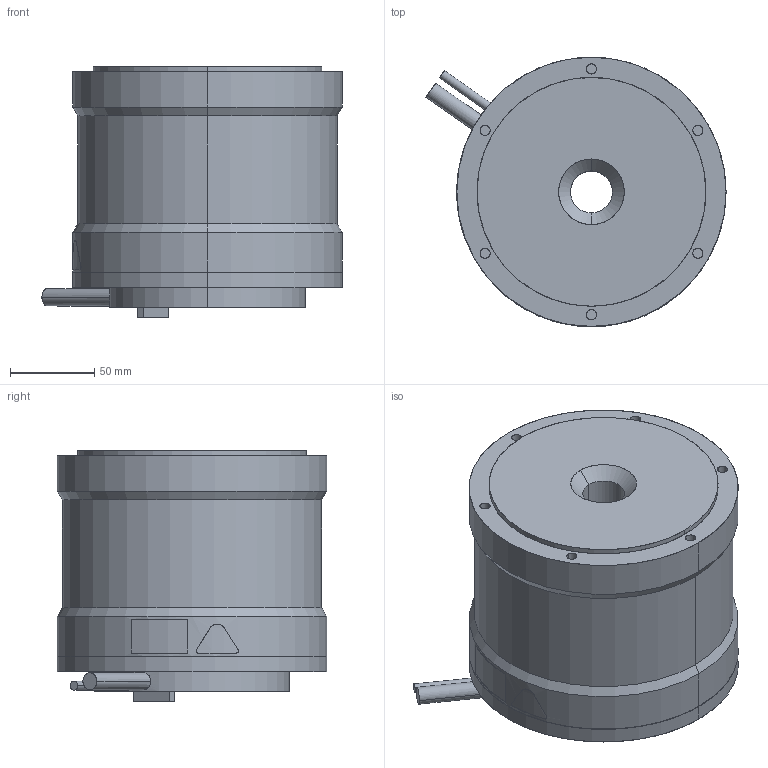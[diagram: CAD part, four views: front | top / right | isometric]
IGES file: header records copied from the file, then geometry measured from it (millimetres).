
Start section: SolidWorks IGES file using analytic representation for surfaces
Bounding box: 178.36 x 160 x 149 mm (x, y, z)
Surface area: 128281.6 mm2 (no closed solid volume)
Topology: 0 solids, 0 shells, 188 faces, 4124 edges, 4124 vertices
Faces by surface type: revolution 112, bspline 76
